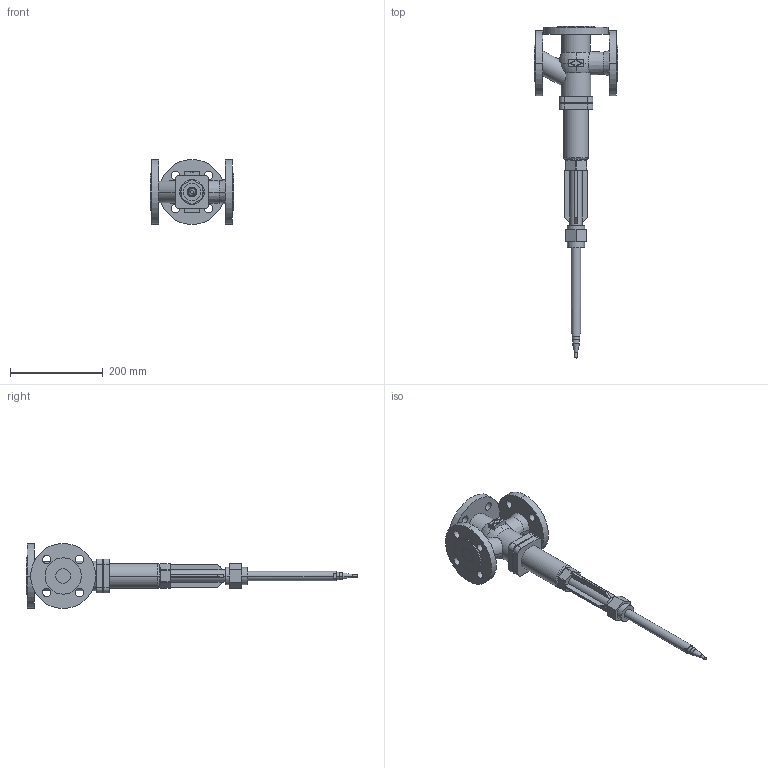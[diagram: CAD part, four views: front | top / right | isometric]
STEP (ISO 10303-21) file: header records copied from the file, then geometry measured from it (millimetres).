
FILE_DESCRIPTION(('CoCreate Modeling STEP Export'),'2;1');
FILE_NAME('c000004787.stp','2011-09-23T10:21:22',(''),(''),'CoCreate Modeling STEP processor for AP214 (Solid Model)','CoCreate Modeling 17.0 01-Apr-2010 (C) Parametric Technology GmbH','');
FILE_SCHEMA(('AUTOMOTIVE_DESIGN { 1 0 10303 214 1 1 1 1 }'));
Length unit declared in the file: millimetre
Products named in the file (1): 1
Bounding box: 180 x 715.44 x 140 mm (x, y, z)
Volume: 1962732 mm3; surface area: 236948.2 mm2
Topology: 1 solids, 1 shells, 195 faces, 492 edges, 321 vertices
Faces by surface type: plane 88, cylinder 86, cone 12, torus 9
Entity records: 7015 total; most frequent: CARTESIAN_POINT 1104, ORIENTED_EDGE 984, DIRECTION 800, EDGE_CURVE 492, VERTEX_POINT 321, AXIS2_PLACEMENT_3D 279, VECTOR 242, LINE 242
